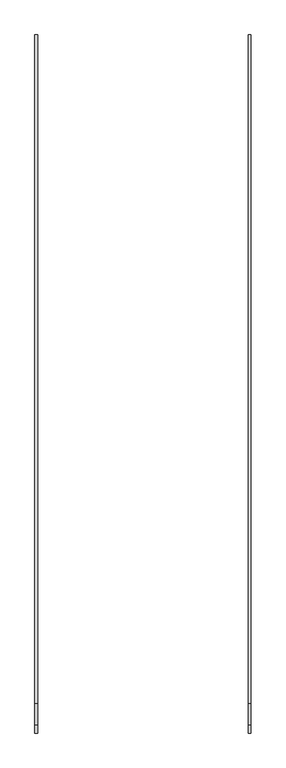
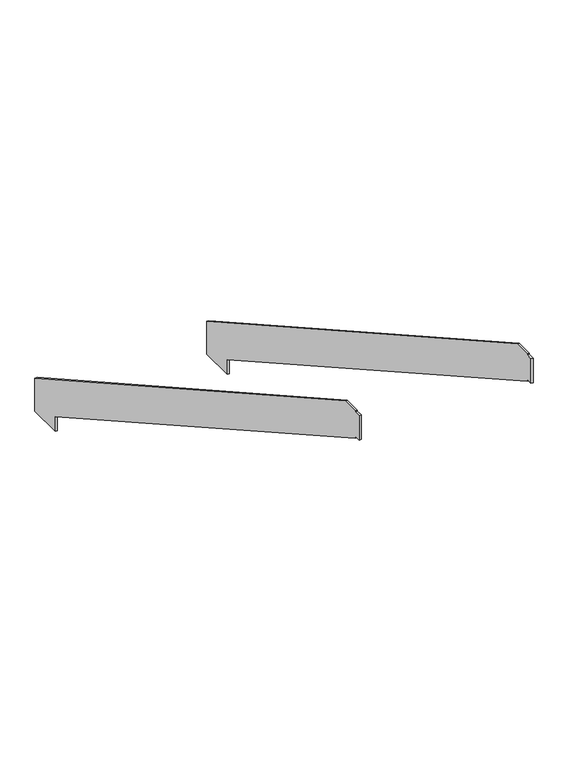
"""IFC4 building model written with IfcOpenShell, lengths in millimetres: beam geometry, limons escalier rdj 1 : limons escalier rdj 1."""

from ifc_helpers import new_model, si_unit, frame, origin, place, context, project, spatial, polyline, outline, extrude, source, transform, mapped, element, save


def beam_47365b03(model_context):
    return source(origin(), model_context, "Body", "SweptSolid", [
        extrude(outline(polyline([(5011.5832812, 3001.5299707), (1342.0685723, 5063.4477595), (1342.0685723, 5078.5), (1294.8685723, 5078.5), (1294.8685723, 5261.5), (1342.0685723, 5261.5), (1342.0685723, 5270.0), (1464.4045112, 5270.0), (5262.0685723, 3136.07448), (5262.0685723, 2890.0), (5011.5832812, 2890.0), (5011.5832812, 3001.5299707)])), frame((10343.2466393, 0.0, 0.0), z_axis=(1.0, 0.0, 0.0), x_axis=(0.0, 1.0, 0.0)), (0.0, 0.0, 1.0), 15.0),
        extrude(outline(polyline([(5011.5832812, 3001.5299707), (1342.0685723, 5063.4477595), (1342.0685723, 5078.5), (1294.8685723, 5078.5), (1294.8685723, 5261.5), (1342.0685723, 5261.5), (1342.0685723, 5270.0), (1464.4045112, 5270.0), (5262.0685723, 3136.07448), (5262.0685723, 2890.0), (5011.5832812, 2890.0), (5011.5832812, 3001.5299707)])), frame((9128.2466393, 0.0, 0.0), z_axis=(1.0, 0.0, 0.0), x_axis=(0.0, 1.0, 0.0)), (0.0, 0.0, 1.0), 15.0),
    ])


if __name__ == "__main__":
    model = new_model("IFC4")
    model_context = context("Model", 3, world=origin())
    ifc_project = project(units=[si_unit("LENGTHUNIT", "METRE", prefix="MILLI")], contexts=[model_context])
    site = spatial("IfcSite", under=ifc_project)
    building = spatial("IfcBuilding", under=site)
    placement = place(None, origin())
    beam_shape = beam_47365b03(model_context)
    element("IfcBeam", 1, ObjectType="limons escalier rdj 1 : limons escalier rdj 1", at=placement, inside=building, context=model_context, shape_type="MappedRepresentation", body=[
        mapped(beam_shape, transform((0.0, 0.0, 0.0), x_axis=(1.0, 0.0, 0.0), y_axis=(0.0, 1.0, 0.0), z_axis=(0.0, 0.0, 1.0))),
    ])
    save(model, "model.ifc")
